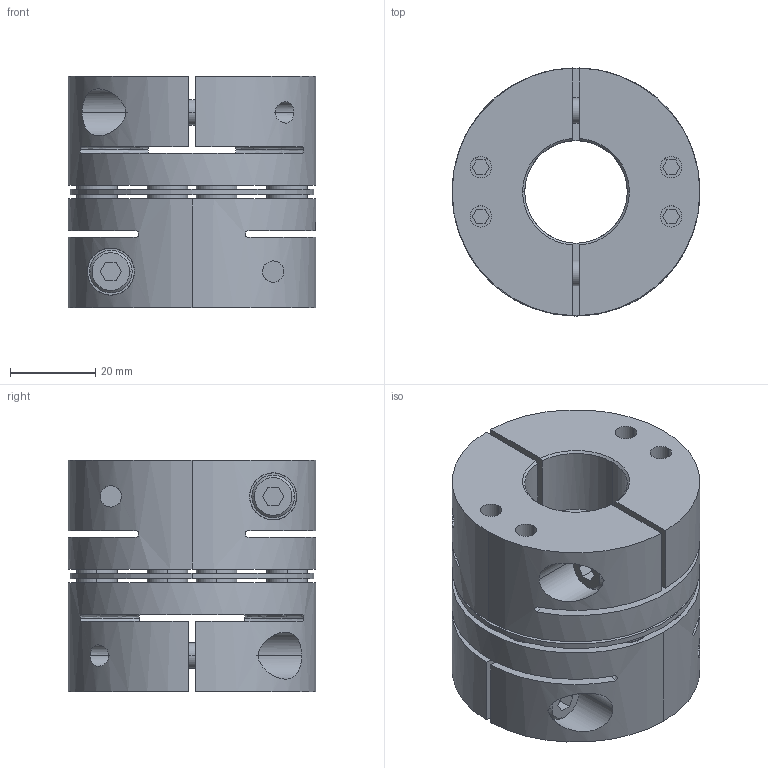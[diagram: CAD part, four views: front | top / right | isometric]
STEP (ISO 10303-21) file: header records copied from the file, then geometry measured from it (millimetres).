
FILE_DESCRIPTION((''),'2;1');
FILE_NAME('TAS-58C-24×28.stp','2022-11-14T22:25:18',(''),(''),'AutoCAD STEP 2000i','AutoCAD 2000i',', , ');
FILE_SCHEMA(('CONFIG_CONTROL_DESIGN'));
Length unit declared in the file: millimetre
Products named in the file (7): TAS-58C-22×22; 忣兜1; TA58C-22-2; CAP-M6×20; TA58C-22; TA58C-12-2; TA58C-12
Assembly tree (9 placements, depth 3):
  TAS-58C-22×22
    忣兜1
    TA58C-22-2
      CAP-M6×20
    TA58C-22
      CAP-M6×20
    TA58C-12-2
      CAP-M6×20
    TA58C-12
      CAP-M6×20
Bounding box: 58 x 58 x 54.25 mm (x, y, z)
Volume: 96228.4 mm3; surface area: 40409.3 mm2
Topology: 1 solids, 1 shells, 360 faces, 903 edges, 645 vertices
Faces by surface type: plane 160, cylinder 148, cone 36, bspline 16
Entity records: 12875 total; most frequent: CARTESIAN_POINT 3843, DIRECTION 1936, ORIENTED_EDGE 1720, EDGE_CURVE 860, AXIS2_PLACEMENT_3D 735, VERTEX_POINT 564, VECTOR 466, LINE 466
